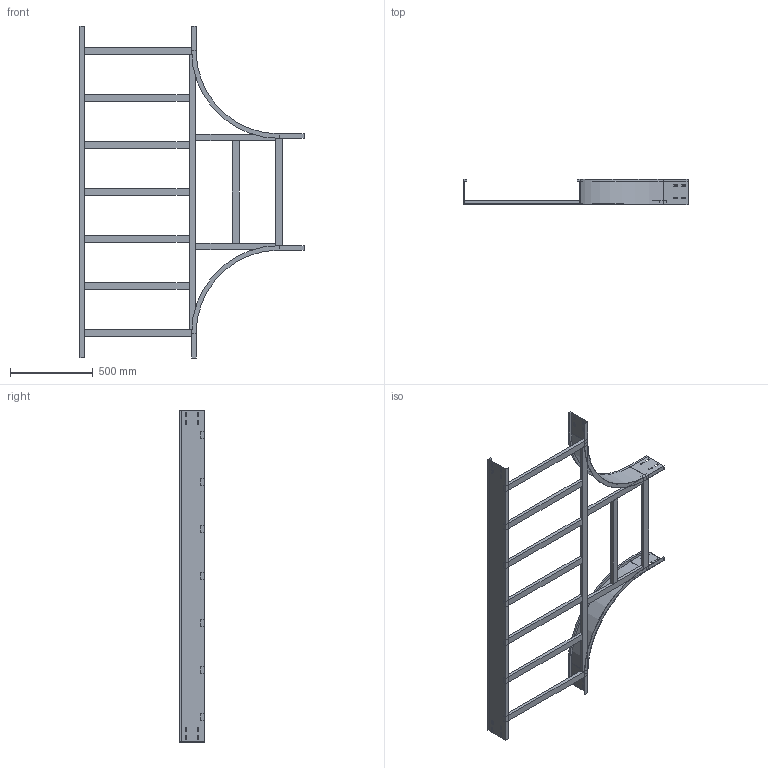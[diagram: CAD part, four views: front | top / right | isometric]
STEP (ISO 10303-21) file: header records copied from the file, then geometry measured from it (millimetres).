
FILE_DESCRIPTION (( 'STEP AP214' ), '1' );
FILE_NAME ('15J5F700.step', '2025-02-21T16:28:21', ( '' ), ( '' ), 'SwSTEP 2.0', 'SolidWorks 2023', '' );
FILE_SCHEMA (( 'AUTOMOTIVE_DESIGN' ));
Length unit declared in the file: millimetre
Products named in the file (8): TRAVERSINO_700; 15J5F700; LONGH.INTERNO 90°_H150_R500; LONGH.RETT_H150_R500+700; TRAVERSINO_VERT_R500; TRAVERSINO_INTERMEDIO_R500+700; TRAVERSINO_COPPIA_700; TRAVERSINO_LONG._R500+700
Assembly tree (15 placements, depth 2):
  15J5F700
    LONGH.INTERNO 90°_H150_R500  x2
    LONGH.RETT_H150_R500+700
    TRAVERSINO_700  x3
    TRAVERSINO_LONG._R500+700
    TRAVERSINO_INTERMEDIO_R500+700  x5
    TRAVERSINO_VERT_R500  x2
    TRAVERSINO_COPPIA_700
Bounding box: 1350 x 150 x 2000 mm (x, y, z)
Volume: 9227858.6 mm3; surface area: 2671105.2 mm2
Topology: 15 solids, 15 shells, 230 faces, 568 edges, 368 vertices
Faces by surface type: plane 222, cylinder 8
Entity records: 4217 total; most frequent: CARTESIAN_POINT 696, ORIENTED_EDGE 664, DIRECTION 636, EDGE_CURVE 332, VECTOR 324, LINE 324, VERTEX_POINT 216, EDGE_LOOP 162
